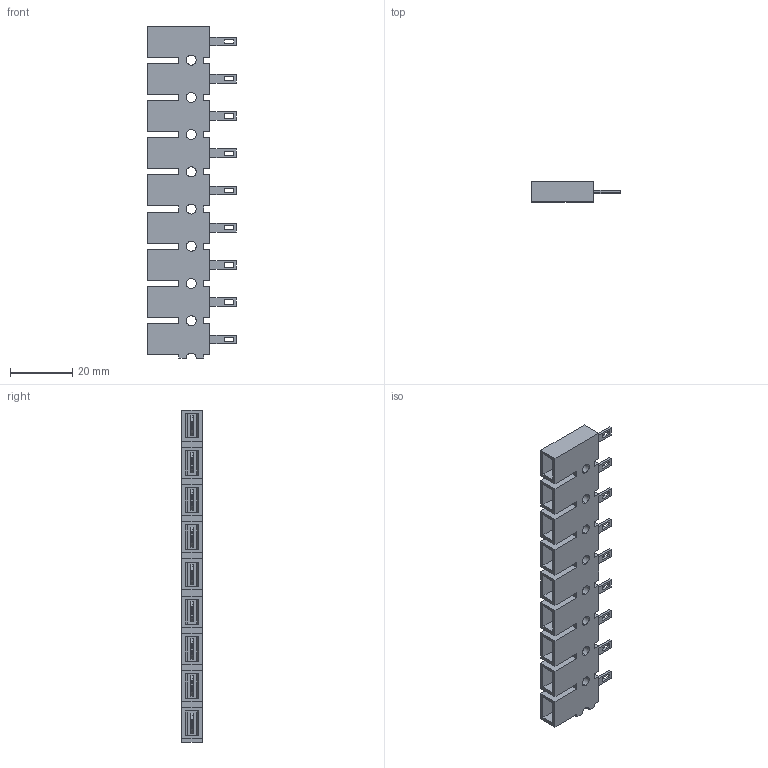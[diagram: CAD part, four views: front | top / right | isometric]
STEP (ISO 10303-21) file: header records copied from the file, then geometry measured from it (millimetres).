
FILE_DESCRIPTION (( 'STEP AP203' ), '1' );
FILE_NAME ('401-LFPA-4.8-09.STEP', '2019-01-14T02:00:22', ( '' ), ( '' ), 'SwSTEP 2.0', 'SolidWorks 2016', '' );
FILE_SCHEMA (( 'CONFIG_CONTROL_DESIGN' ));
Length unit declared in the file: millimetre
Products named in the file (1): 401-LFPA-4.8-09
Bounding box: 28.5 x 6.5 x 107 mm (x, y, z)
Volume: 7896.5 mm3; surface area: 12221 mm2
Topology: 1 solids, 1 shells, 525 faces, 1443 edges, 956 vertices
Faces by surface type: plane 399, cylinder 126
Entity records: 17356 total; most frequent: CARTESIAN_POINT 4131, ORIENTED_EDGE 2886, DIRECTION 2405, EDGE_CURVE 1443, VECTOR 1065, LINE 1065, VERTEX_POINT 956, AXIS2_PLACEMENT_3D 670
